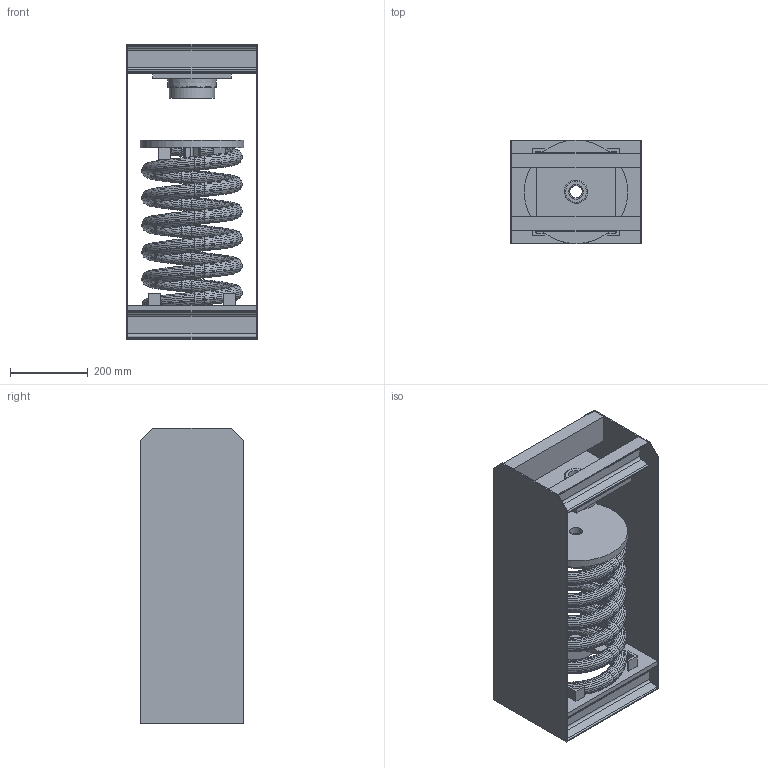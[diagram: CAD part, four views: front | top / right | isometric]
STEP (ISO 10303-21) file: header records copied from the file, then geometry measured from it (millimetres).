
FILE_DESCRIPTION(/* description */ (''),/* implementation_level */ '2;1');
FILE_NAME(/* name */ 'C:\001_Work\Designs\HANGER BOXES\30N 100 SERIES\30N-192-193\30N-193.stp',/* time_stamp */ '2015-06-11T12:38:14-04:00',/* author */ ('rramoutar'),/* organization */ ('Mason Industries Inc.'),/* preprocessor_version */ 'ST-DEVELOPER v15.2',/* originating_system */ 'Autodesk Inventor 2014',/* authorisation */ '');
FILE_SCHEMA (('AUTOMOTIVE_DESIGN { 1 0 10303 214 3 1 1 }'));
Products named in the file (1): 30N-193
Bounding box: 336.55 x 266.7 x 762 mm (x, y, z)
Volume: 5812121.7 mm3; surface area: 2619538.1 mm2
Topology: 20 solids, 20 shells, 741 faces, 1570 edges, 874 vertices
Faces by surface type: bspline 535, plane 149, cylinder 55, cone 1, torus 1
Full cylindrical faces by diameter (mm): 31.75 x1, 33.337 x1, 38.1 x2, 47.625 x4, 60.325 x1, 107.95 x2, 117.475 x1, 122.237 x2, 177.8 x1, 266.7 x1
Entity records: 41218 total; most frequent: CARTESIAN_POINT 28569, ORIENTED_EDGE 3100, EDGE_CURVE 1550, B_SPLINE_CURVE_WITH_KNOTS 1080, DIRECTION 999, VERTEX_POINT 872, EDGE_LOOP 778, STYLED_ITEM 761
